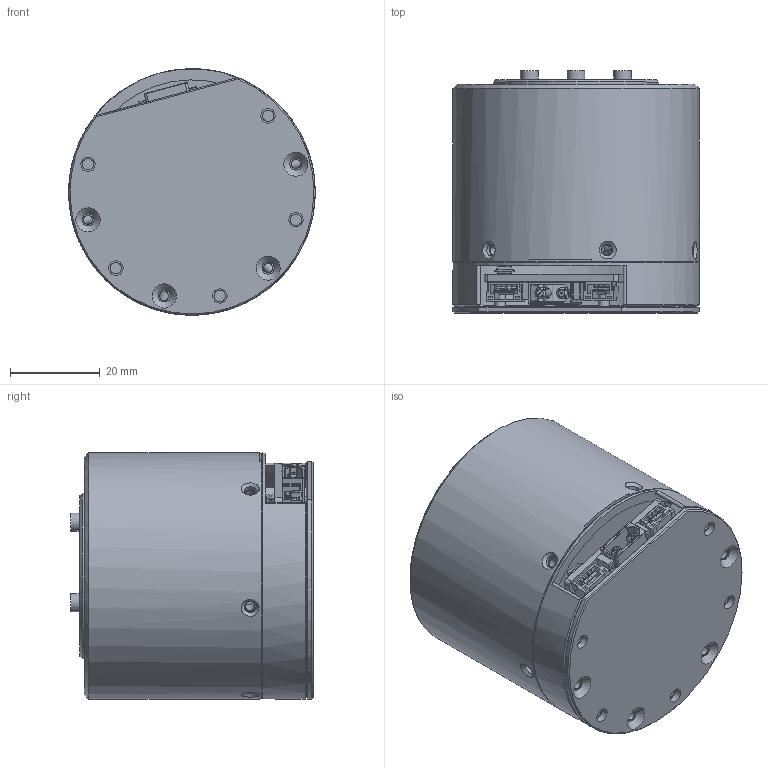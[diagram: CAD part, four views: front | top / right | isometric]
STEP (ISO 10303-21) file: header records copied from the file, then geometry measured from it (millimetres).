
FILE_DESCRIPTION (( 'STEP AP214' ), '1' );
FILE_NAME ('AK40-36-KV80-A.STEP', '2024-07-12T01:58:06', ( '' ), ( '' ), 'SwSTEP 2.0', 'SolidWorks 2020', '' );
FILE_SCHEMA (( 'AUTOMOTIVE_DESIGN' ));
Length unit declared in the file: millimetre
Products named in the file (1): AK40-36-KV80-A
Bounding box: 54.99 x 54 x 55 mm (x, y, z)
Surface area: 24851.8 mm2 (no closed solid volume)
Topology: 0 solids, 34 shells, 379 faces, 1636 edges, 1277 vertices
Faces by surface type: plane 209, cylinder 116, cone 26, torus 17, bspline 9, sphere 2
Full cylindrical faces by diameter (mm): 2.05 x10, 2.5 x17, 2.6 x12, 2.7 x4, 3.2 x5, 4 x3, 5 x1, 8 x1, 18 x1, 37 x1, 41 x1, 52 x1, 55 x2
Entity records: 21571 total; most frequent: CARTESIAN_POINT 4478, DIRECTION 2720, ORIENTED_EDGE 2080, EDGE_CURVE 1539, VERTEX_POINT 1262, LINE 944, VECTOR 944, AXIS2_PLACEMENT_3D 888
